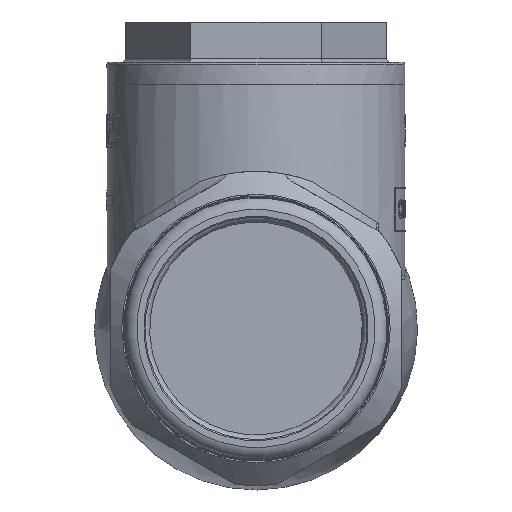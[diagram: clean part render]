
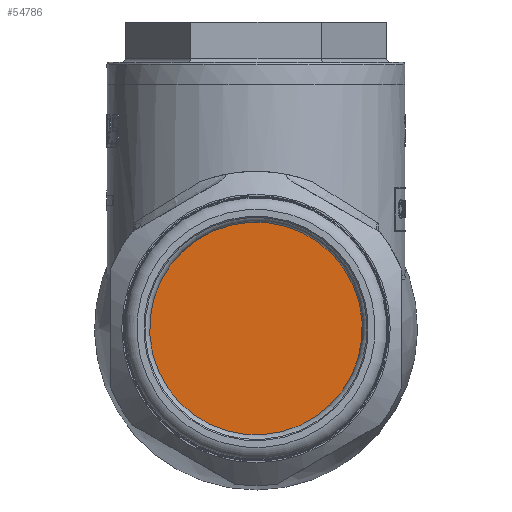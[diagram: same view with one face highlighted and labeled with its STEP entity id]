
A CAD part, left-side view. The second image highlights one B-rep face of the part: STEP entity #54786.
In plain terms, the highlighted planar face has unit normal (-1, 0, 0).
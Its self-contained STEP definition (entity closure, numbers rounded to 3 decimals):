
#54770=CARTESIAN_POINT('',(-116.5,13.256,-0.917));
#54771=DIRECTION('',(-1.0,0.,0.));
#54772=DIRECTION('',(0.,0.069,0.998));
#54773=AXIS2_PLACEMENT_3D('',#54770,#54771,#54772);
#54774=PLANE('',#54773);
#54775=CARTESIAN_POINT('',(-116.5,26.512,-1.835));
#54776=VERTEX_POINT('',#54775);
#54777=CARTESIAN_POINT('',(-116.5,0.,0.));
#54778=DIRECTION('',(-1.,0.,0.));
#54779=DIRECTION('',(0.,0.998,-0.069));
#54780=AXIS2_PLACEMENT_3D('',#54777,#54778,#54779);
#54781=CIRCLE('',#54780,26.575);
#54782=EDGE_CURVE('',#54776,#54776,#54781,.T.);
#54783=ORIENTED_EDGE('',*,*,#54782,.T.);
#54784=EDGE_LOOP('',(#54783));
#54785=FACE_OUTER_BOUND('',#54784,.T.);
#54786=ADVANCED_FACE('',(#54785),#54774,.T.);
